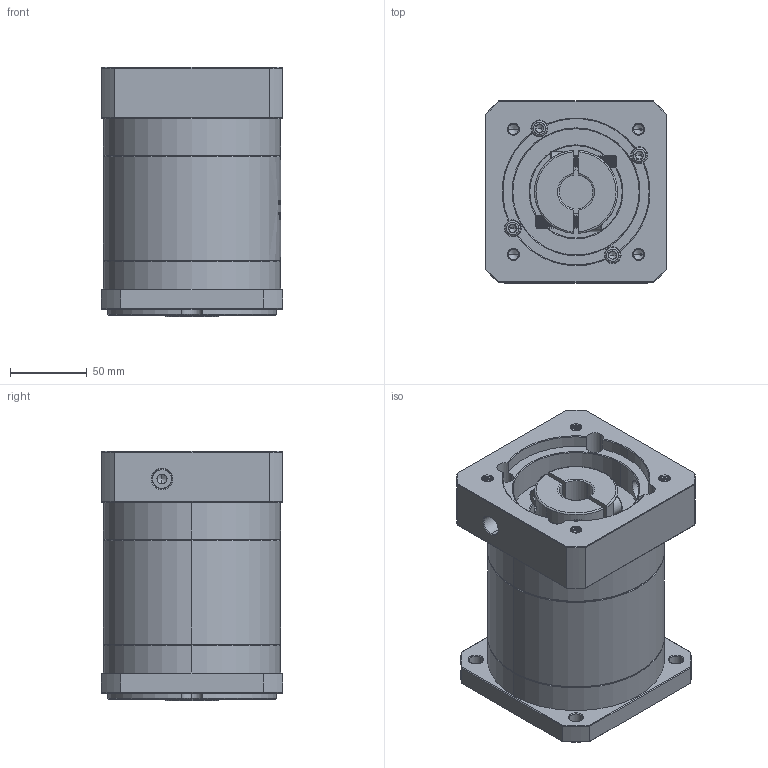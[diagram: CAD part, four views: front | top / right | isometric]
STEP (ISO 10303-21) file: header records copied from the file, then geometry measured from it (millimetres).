
FILE_DESCRIPTION (( 'STEP AP214' ), '1' );
FILE_NAME ('ZF120A-K25-L2-22-95-115-M8.step', '2023-03-07T09:38:12', ( '' ), ( '' ), 'SwSTEP 2.0', 'SolidWorks 2016', '' );
FILE_SCHEMA (( 'AUTOMOTIVE_DESIGN' ));
Length unit declared in the file: millimetre
Products named in the file (1): ZF120A-K25-L2-22-95-115-M8
Bounding box: 118 x 118 x 162 mm (x, y, z)
Volume: 1612732.1 mm3; surface area: 167016.2 mm2
Topology: 6 solids, 6 shells, 1903 faces, 4994 edges, 3185 vertices
Faces by surface type: plane 850, cylinder 396, bspline 332, cone 325
Entity records: 101918 total; most frequent: CARTESIAN_POINT 37746, ORIENTED_EDGE 9932, DIRECTION 7705, EDGE_CURVE 4966, VERTEX_POINT 3185, VECTOR 2697, LINE 2697, AXIS2_PLACEMENT_3D 2504
